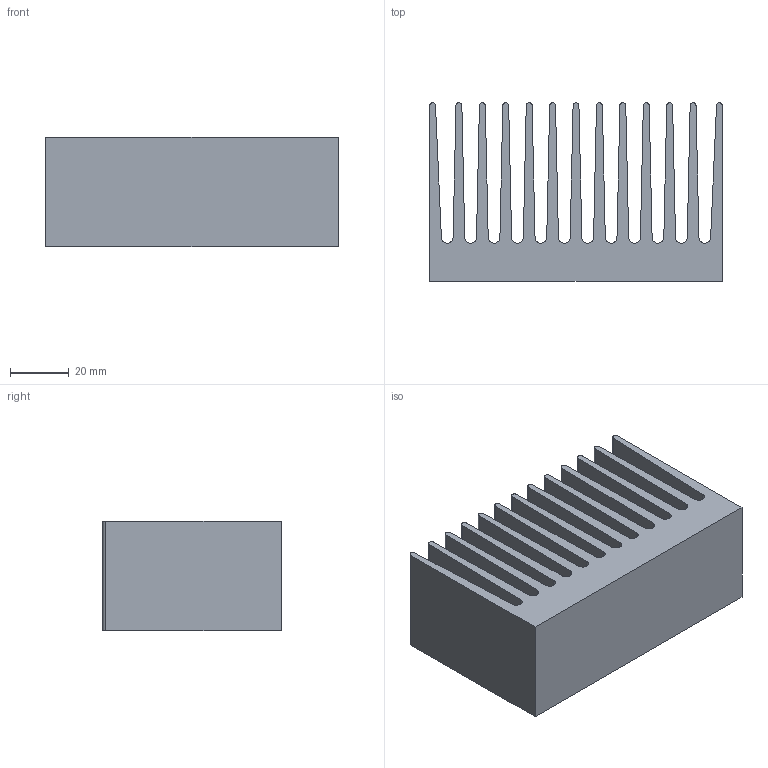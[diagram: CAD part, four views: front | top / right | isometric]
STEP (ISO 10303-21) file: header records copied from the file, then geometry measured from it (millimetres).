
FILE_DESCRIPTION (( 'STEP AP214' ), '1' );
FILE_NAME ('PR213.STEP', '2004-04-30T12:51:55', ( '' ), ( '' ), 'SwSTEP 2.0', 'SolidWorks 2002349', '' );
FILE_SCHEMA (( 'AUTOMOTIVE_DESIGN' ));
Length unit declared in the file: millimetre
Products named in the file (1): PR213
Bounding box: 100 x 61 x 37.5 mm (x, y, z)
Volume: 119994.4 mm3; surface area: 59521.1 mm2
Topology: 1 solids, 1 shells, 54 faces, 156 edges, 104 vertices
Faces by surface type: plane 29, cylinder 25
Entity records: 1813 total; most frequent: DIRECTION 316, CARTESIAN_POINT 315, ORIENTED_EDGE 312, EDGE_CURVE 156, LINE 106, VECTOR 106, AXIS2_PLACEMENT_3D 105, VERTEX_POINT 104
